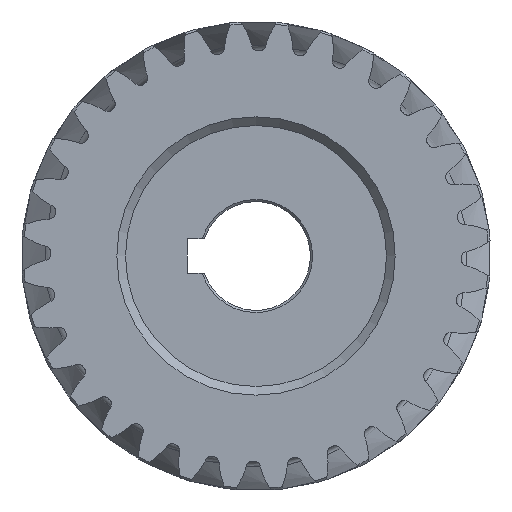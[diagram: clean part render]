
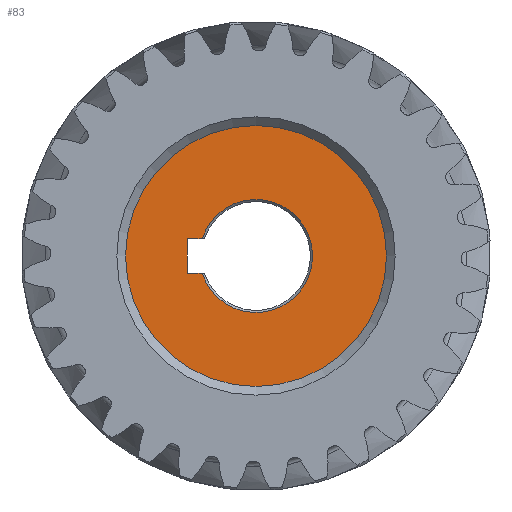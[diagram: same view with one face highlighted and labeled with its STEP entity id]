
A CAD part, left-side view. The second image highlights one B-rep face of the part: STEP entity #83.
In plain terms, the highlighted planar face has unit normal (-1, 0, 0).
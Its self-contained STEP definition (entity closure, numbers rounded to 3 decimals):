
#83=ADVANCED_FACE('',(#2546,#2548),#2550,.T.);
#2546=FACE_BOUND('',#2547,.T.);
#2547=EDGE_LOOP('',(#9077));
#2548=FACE_BOUND('',#2549,.T.);
#2549=EDGE_LOOP('',(#9078,#9079,#9080,#9081,#9082,#9083));
#2550=PLANE('',#2551);
#2551=AXIS2_PLACEMENT_3D('',#2552,#2553,#2554);
#2552=CARTESIAN_POINT('',(8.,0.,0.));
#2553=DIRECTION('',(-1.,-0.,-0.));
#2554=DIRECTION('',(0.,0.,-1.));
#9077=ORIENTED_EDGE('',*,*,#10672,.T.);
#9078=ORIENTED_EDGE('',*,*,#10673,.T.);
#9079=ORIENTED_EDGE('',*,*,#10665,.F.);
#9080=ORIENTED_EDGE('',*,*,#10674,.T.);
#9081=ORIENTED_EDGE('',*,*,#10675,.T.);
#9082=ORIENTED_EDGE('',*,*,#10676,.T.);
#9083=ORIENTED_EDGE('',*,*,#10677,.T.);
#10665=EDGE_CURVE('',#11469,#11464,#11471,.F.);
#10672=EDGE_CURVE('',#11483,#11483,#11484,.T.);
#10673=EDGE_CURVE('',#11485,#11464,#11486,.F.);
#10674=EDGE_CURVE('',#11469,#11487,#11488,.F.);
#10675=EDGE_CURVE('',#11487,#11489,#11490,.F.);
#10676=EDGE_CURVE('',#11489,#11491,#11492,.F.);
#10677=EDGE_CURVE('',#11491,#11485,#11493,.F.);
#11464=VERTEX_POINT('',#12812);
#11469=VERTEX_POINT('',#12825);
#11471=CIRCLE('',#12832,13.);
#11483=VERTEX_POINT('',#12862);
#11484=CIRCLE('',#12863,30.);
#11485=VERTEX_POINT('',#12867);
#11486=LINE('',#12868,#12869);
#11487=VERTEX_POINT('',#12871);
#11488=LINE('',#12872,#12873);
#11489=VERTEX_POINT('',#12875);
#11490=CIRCLE('',#12876,0.25);
#11491=VERTEX_POINT('',#12880);
#11492=LINE('',#12881,#12882);
#11493=CIRCLE('',#12884,0.25);
#12812=CARTESIAN_POINT('',(8.,12.369,4.));
#12825=CARTESIAN_POINT('',(8.,12.369,-4.));
#12832=AXIS2_PLACEMENT_3D('',#12833,#12834,#12835);
#12833=CARTESIAN_POINT('',(8.,0.,0.));
#12834=DIRECTION('',(1.,0.,0.));
#12835=DIRECTION('',(0.,0.951,0.308));
#12862=CARTESIAN_POINT('',(8.,0.,-30.));
#12863=AXIS2_PLACEMENT_3D('',#12864,#12865,#12866);
#12864=CARTESIAN_POINT('',(8.,0.,0.));
#12865=DIRECTION('',(-1.,-0.,-0.));
#12866=DIRECTION('',(0.,0.,-1.));
#12867=CARTESIAN_POINT('',(8.,15.55,4.));
#12868=CARTESIAN_POINT('',(8.,12.369,4.));
#12869=VECTOR('',#12870,1.);
#12870=DIRECTION('',(0.,1.,0.));
#12871=CARTESIAN_POINT('',(8.,15.55,-4.));
#12872=CARTESIAN_POINT('',(8.,15.55,-4.));
#12873=VECTOR('',#12874,1.);
#12874=DIRECTION('',(0.,-1.,0.));
#12875=CARTESIAN_POINT('',(8.,15.8,-3.75));
#12876=AXIS2_PLACEMENT_3D('',#12877,#12878,#12879);
#12877=CARTESIAN_POINT('',(8.,15.55,-3.75));
#12878=DIRECTION('',(-1.,0.,0.));
#12879=DIRECTION('',(0.,1.,0.));
#12880=CARTESIAN_POINT('',(8.,15.8,3.75));
#12881=CARTESIAN_POINT('',(8.,15.8,3.75));
#12882=VECTOR('',#12883,1.);
#12883=DIRECTION('',(0.,0.,-1.));
#12884=AXIS2_PLACEMENT_3D('',#12885,#12886,#12887);
#12885=CARTESIAN_POINT('',(8.,15.55,3.75));
#12886=DIRECTION('',(-1.,0.,0.));
#12887=DIRECTION('',(0.,0.,1.));
